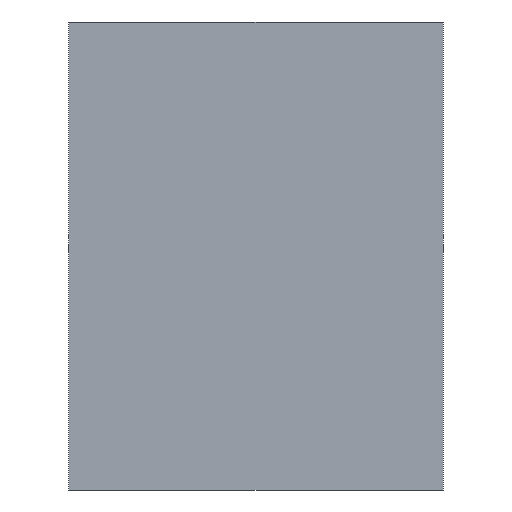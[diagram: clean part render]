
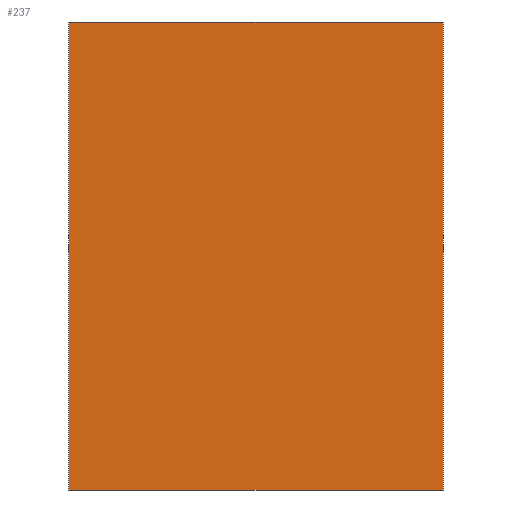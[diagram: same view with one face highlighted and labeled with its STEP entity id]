
A CAD part, front view. The second image highlights one B-rep face of the part: STEP entity #237.
In plain terms, the highlighted planar face has unit normal (0, -1, 0).
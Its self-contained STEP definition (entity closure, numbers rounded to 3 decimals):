
#21 = EDGE_CURVE('',#22,#24,#26,.T.);
#22 = VERTEX_POINT('',#23);
#23 = CARTESIAN_POINT('',(-29.9,-12.415,-15.01));
#24 = VERTEX_POINT('',#25);
#25 = CARTESIAN_POINT('',(-29.9,-12.415,-14.01));
#26 = SURFACE_CURVE('',#27,(#31,#43),.PCURVE_S1.);
#27 = LINE('',#28,#29);
#28 = CARTESIAN_POINT('',(-29.9,-12.415,-15.01));
#29 = VECTOR('',#30,1.);
#30 = DIRECTION('',(0.,0.,1.));
#31 = PCURVE('',#32,#37);
#32 = PLANE('',#33);
#33 = AXIS2_PLACEMENT_3D('',#34,#35,#36);
#34 = CARTESIAN_POINT('',(-29.9,-12.415,-15.01));
#35 = DIRECTION('',(1.,0.,-0.));
#36 = DIRECTION('',(0.,0.,1.));
#37 = DEFINITIONAL_REPRESENTATION('',(#38),#42);
#38 = LINE('',#39,#40);
#39 = CARTESIAN_POINT('',(0.,0.));
#40 = VECTOR('',#41,1.);
#41 = DIRECTION('',(1.,0.));
#42 = ( GEOMETRIC_REPRESENTATION_CONTEXT(2) 
PARAMETRIC_REPRESENTATION_CONTEXT() REPRESENTATION_CONTEXT('2D SPACE',''
  ) );
#43 = PCURVE('',#44,#49);
#44 = PLANE('',#45);
#45 = AXIS2_PLACEMENT_3D('',#46,#47,#48);
#46 = CARTESIAN_POINT('',(-29.9,-12.415,-15.01));
#47 = DIRECTION('',(-0.,1.,0.));
#48 = DIRECTION('',(0.,0.,1.));
#49 = DEFINITIONAL_REPRESENTATION('',(#50),#54);
#50 = LINE('',#51,#52);
#51 = CARTESIAN_POINT('',(0.,0.));
#52 = VECTOR('',#53,1.);
#53 = DIRECTION('',(1.,0.));
#54 = ( GEOMETRIC_REPRESENTATION_CONTEXT(2) 
PARAMETRIC_REPRESENTATION_CONTEXT() REPRESENTATION_CONTEXT('2D SPACE',''
  ) );
#72 = PLANE('',#73);
#73 = AXIS2_PLACEMENT_3D('',#74,#75,#76);
#74 = CARTESIAN_POINT('',(-29.9,-12.415,-15.01));
#75 = DIRECTION('',(0.,0.,1.));
#76 = DIRECTION('',(1.,0.,-0.));
#126 = PLANE('',#127);
#127 = AXIS2_PLACEMENT_3D('',#128,#129,#130);
#128 = CARTESIAN_POINT('',(-29.9,-12.415,-14.01));
#129 = DIRECTION('',(0.,0.,1.));
#130 = DIRECTION('',(1.,0.,-0.));
#141 = EDGE_CURVE('',#142,#144,#146,.T.);
#142 = VERTEX_POINT('',#143);
#143 = CARTESIAN_POINT('',(-29.1,-12.415,-15.01));
#144 = VERTEX_POINT('',#145);
#145 = CARTESIAN_POINT('',(-29.1,-12.415,-14.01));
#146 = SURFACE_CURVE('',#147,(#151,#163),.PCURVE_S1.);
#147 = LINE('',#148,#149);
#148 = CARTESIAN_POINT('',(-29.1,-12.415,-15.01));
#149 = VECTOR('',#150,1.);
#150 = DIRECTION('',(0.,0.,1.));
#151 = PCURVE('',#152,#157);
#152 = PLANE('',#153);
#153 = AXIS2_PLACEMENT_3D('',#154,#155,#156);
#154 = CARTESIAN_POINT('',(-29.1,-12.415,-15.01));
#155 = DIRECTION('',(1.,0.,-0.));
#156 = DIRECTION('',(0.,0.,1.));
#157 = DEFINITIONAL_REPRESENTATION('',(#158),#162);
#158 = LINE('',#159,#160);
#159 = CARTESIAN_POINT('',(0.,0.));
#160 = VECTOR('',#161,1.);
#161 = DIRECTION('',(1.,0.));
#162 = ( GEOMETRIC_REPRESENTATION_CONTEXT(2) 
PARAMETRIC_REPRESENTATION_CONTEXT() REPRESENTATION_CONTEXT('2D SPACE',''
  ) );
#163 = PCURVE('',#44,#164);
#164 = DEFINITIONAL_REPRESENTATION('',(#165),#169);
#165 = LINE('',#166,#167);
#166 = CARTESIAN_POINT('',(0.,0.8));
#167 = VECTOR('',#168,1.);
#168 = DIRECTION('',(1.,0.));
#169 = ( GEOMETRIC_REPRESENTATION_CONTEXT(2) 
PARAMETRIC_REPRESENTATION_CONTEXT() REPRESENTATION_CONTEXT('2D SPACE',''
  ) );
#237 = ADVANCED_FACE('',(#238),#44,.F.);
#238 = FACE_BOUND('',#239,.F.);
#239 = EDGE_LOOP('',(#240,#261,#262,#283));
#240 = ORIENTED_EDGE('',*,*,#241,.F.);
#241 = EDGE_CURVE('',#22,#142,#242,.T.);
#242 = SURFACE_CURVE('',#243,(#247,#254),.PCURVE_S1.);
#243 = LINE('',#244,#245);
#244 = CARTESIAN_POINT('',(-29.9,-12.415,-15.01));
#245 = VECTOR('',#246,1.);
#246 = DIRECTION('',(1.,0.,-0.));
#247 = PCURVE('',#44,#248);
#248 = DEFINITIONAL_REPRESENTATION('',(#249),#253);
#249 = LINE('',#250,#251);
#250 = CARTESIAN_POINT('',(0.,0.));
#251 = VECTOR('',#252,1.);
#252 = DIRECTION('',(0.,1.));
#253 = ( GEOMETRIC_REPRESENTATION_CONTEXT(2) 
PARAMETRIC_REPRESENTATION_CONTEXT() REPRESENTATION_CONTEXT('2D SPACE',''
  ) );
#254 = PCURVE('',#72,#255);
#255 = DEFINITIONAL_REPRESENTATION('',(#256),#260);
#256 = LINE('',#257,#258);
#257 = CARTESIAN_POINT('',(0.,0.));
#258 = VECTOR('',#259,1.);
#259 = DIRECTION('',(1.,0.));
#260 = ( GEOMETRIC_REPRESENTATION_CONTEXT(2) 
PARAMETRIC_REPRESENTATION_CONTEXT() REPRESENTATION_CONTEXT('2D SPACE',''
  ) );
#261 = ORIENTED_EDGE('',*,*,#21,.T.);
#262 = ORIENTED_EDGE('',*,*,#263,.T.);
#263 = EDGE_CURVE('',#24,#144,#264,.T.);
#264 = SURFACE_CURVE('',#265,(#269,#276),.PCURVE_S1.);
#265 = LINE('',#266,#267);
#266 = CARTESIAN_POINT('',(-29.9,-12.415,-14.01));
#267 = VECTOR('',#268,1.);
#268 = DIRECTION('',(1.,0.,-0.));
#269 = PCURVE('',#44,#270);
#270 = DEFINITIONAL_REPRESENTATION('',(#271),#275);
#271 = LINE('',#272,#273);
#272 = CARTESIAN_POINT('',(1.,0.));
#273 = VECTOR('',#274,1.);
#274 = DIRECTION('',(0.,1.));
#275 = ( GEOMETRIC_REPRESENTATION_CONTEXT(2) 
PARAMETRIC_REPRESENTATION_CONTEXT() REPRESENTATION_CONTEXT('2D SPACE',''
  ) );
#276 = PCURVE('',#126,#277);
#277 = DEFINITIONAL_REPRESENTATION('',(#278),#282);
#278 = LINE('',#279,#280);
#279 = CARTESIAN_POINT('',(0.,0.));
#280 = VECTOR('',#281,1.);
#281 = DIRECTION('',(1.,0.));
#282 = ( GEOMETRIC_REPRESENTATION_CONTEXT(2) 
PARAMETRIC_REPRESENTATION_CONTEXT() REPRESENTATION_CONTEXT('2D SPACE',''
  ) );
#283 = ORIENTED_EDGE('',*,*,#141,.F.);
